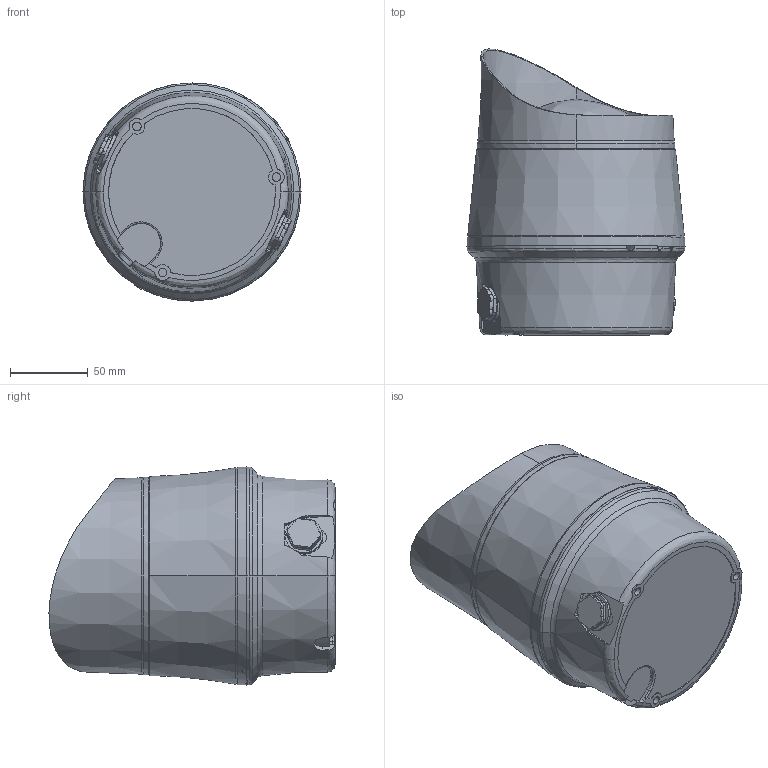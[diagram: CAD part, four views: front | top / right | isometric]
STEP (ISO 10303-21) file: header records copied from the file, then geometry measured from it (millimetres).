
FILE_DESCRIPTION (( 'STEP AP214' ), '1' );
FILE_NAME ('P450 TLA.STEP', '2017-12-22T09:40:41', ( '' ), ( '' ), 'SwSTEP 2.0', 'SolidWorks 2015', '' );
FILE_SCHEMA (( 'AUTOMOTIVE_DESIGN' ));
Length unit declared in the file: millimetre
Products named in the file (2): P450 TLA
Bounding box: 140 x 183.64 x 140 mm (x, y, z)
Volume: 2039374.9 mm3; surface area: 207812.8 mm2
Topology: 8 solids, 19 shells, 550 faces, 1452 edges, 941 vertices
Faces by surface type: cylinder 157, plane 153, bspline 124, cone 116
Entity records: 28156 total; most frequent: CARTESIAN_POINT 9380, ORIENTED_EDGE 2892, DIRECTION 2354, EDGE_CURVE 1446, AXIS2_PLACEMENT_3D 954, VERTEX_POINT 941, EDGE_LOOP 591, UNCERTAINTY_MEASURE_WITH_UNIT 560
